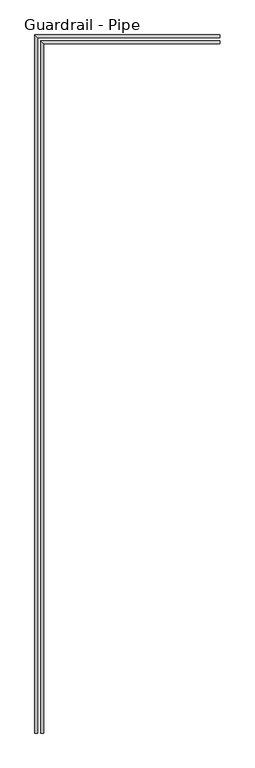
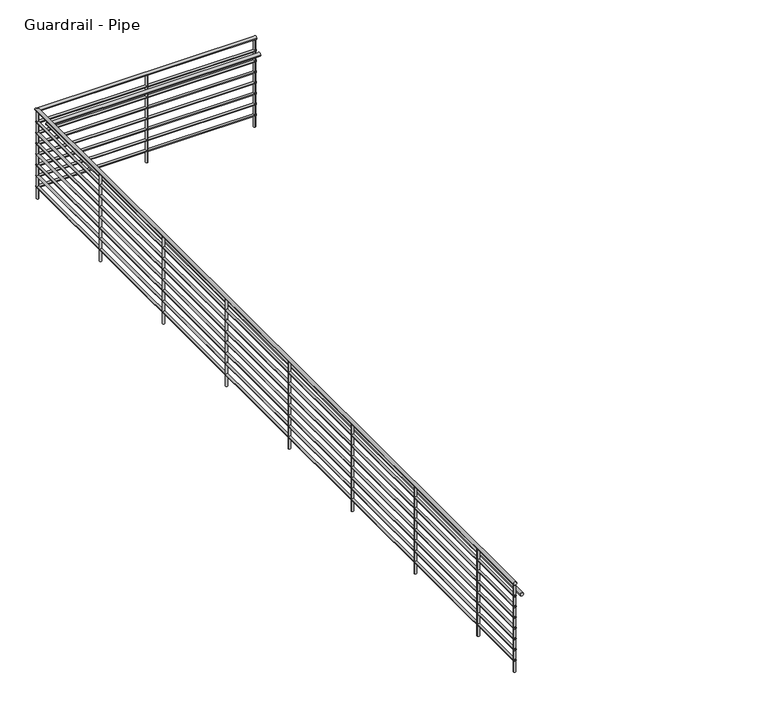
"""IFC4 building model written with IfcOpenShell, lengths in millimetres: railing geometry, Guardrail - Pipe."""

from ifc_helpers import new_model, si_unit, point, frame, frame_2d, origin, place, context, project, spatial, circle_curve, ellipse_curve, trimmed, segment, composite_curve, outline, extrude, source, transform, mapped, element, save
from ifc_brep_helpers import plane_surface, cylinder_surface, advanced_brep


def guardrail_pipe_a9856383(model_context):
    return source(origin(), model_context, "Body", "SolidModel", [
        advanced_brep(
        [(-2934.7516552, 9579.927236, 4095.75), (-2934.7516552, 9618.027236, 4095.75), (-5354.1016552, 9579.927236, 4095.75), (-5392.2016552, 9618.027236, 4095.75), (-5354.1016552, 353.377236, 4095.75), (-5392.2016552, 353.377236, 4095.75)],
        [
            (0, 1, circle_curve(frame((-2934.7516552, 9598.977236, 4095.75), z_axis=(1.0, 0.0, 0.0), x_axis=(0.0, 1.0, 0.0)), 19.05)),
            (1, 0, circle_curve(frame((-2934.7516552, 9598.977236, 4095.75), z_axis=(1.0, 0.0, 0.0), x_axis=(0.0, 1.0, 0.0)), 19.05)),
            (0, 2),
            (2, 3, ellipse_curve(frame((-5373.1516552, 9598.977236, 4095.75), z_axis=(0.7071067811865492, 0.7071067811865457, 0.0), x_axis=(0.7071067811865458, -0.7071067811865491, 0.0)), 26.9407684, 19.05)),
            (3, 1),
            (3, 2, ellipse_curve(frame((-5373.1516552, 9598.977236, 4095.75), z_axis=(0.7071067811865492, 0.7071067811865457, 0.0), x_axis=(0.7071067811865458, -0.7071067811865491, 0.0)), 26.9407684, 19.05)),
            (4, 5, circle_curve(frame((-5373.1516552, 353.377236, 4095.75), z_axis=(0.0, -1.0, 0.0), x_axis=(-1.0, 0.0, 0.0)), 19.05)),
            (5, 4, circle_curve(frame((-5373.1516552, 353.377236, 4095.75), z_axis=(0.0, -1.0, 0.0), x_axis=(-1.0, 0.0, 0.0)), 19.05)),
            (2, 4),
            (5, 3),
        ],
        [
            plane_surface(frame((-2934.7516552, 9598.977236, 4114.8), z_axis=(1.0, 0.0, 0.0), x_axis=(0.0, -1.0, 0.0))),
            cylinder_surface(frame((-2934.7516552, 9598.977236, 4095.75), z_axis=(1.0, 0.0, 0.0), x_axis=(0.0, 1.0, 0.0)), 19.05),
            plane_surface(frame((-5373.1516552, 353.377236, 4114.8), z_axis=(0.0, -1.0, 0.0), x_axis=(0.0, 0.0, -1.0))),
            cylinder_surface(frame((-5373.1516552, 9598.977236, 4095.75), z_axis=(0.0, 1.0, 0.0), x_axis=(-1.0, 0.0, 0.0)), 19.05),
        ],
        [
            (0, [[1, 2]]),
            (1, [[-1, 3, 4, 5]]),
            (1, [[-2, -5, 6, -3]]),
            (2, [[7, 8]]),
            (3, [[-4, 9, -8, 10]]),
            (3, [[-6, -10, -7, -9]]),
        ],
    ),
        advanced_brep(
        [(-2934.7516552, 9586.277236, 3949.7), (-2934.7516552, 9611.677236, 3949.7), (-5360.4516552, 9586.277236, 3949.7), (-5385.8516552, 9611.677236, 3949.7), (-5360.4516552, 353.377236, 3949.7), (-5385.8516552, 353.377236, 3949.7)],
        [
            (0, 1, circle_curve(frame((-2934.7516552, 9598.977236, 3949.7), z_axis=(1.0, 0.0, 0.0), x_axis=(0.0, 1.0, 0.0)), 12.7)),
            (1, 0, circle_curve(frame((-2934.7516552, 9598.977236, 3949.7), z_axis=(1.0, 0.0, 0.0), x_axis=(0.0, 1.0, 0.0)), 12.7)),
            (0, 2),
            (2, 3, ellipse_curve(frame((-5373.1516552, 9598.977236, 3949.7), z_axis=(0.7071067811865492, 0.7071067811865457, 0.0), x_axis=(0.7071067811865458, -0.7071067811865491, 0.0)), 17.9605122, 12.7)),
            (3, 1),
            (3, 2, ellipse_curve(frame((-5373.1516552, 9598.977236, 3949.7), z_axis=(0.7071067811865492, 0.7071067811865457, 0.0), x_axis=(0.7071067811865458, -0.7071067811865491, 0.0)), 17.9605122, 12.7)),
            (4, 5, circle_curve(frame((-5373.1516552, 353.377236, 3949.7), z_axis=(0.0, -1.0, 0.0), x_axis=(-1.0, 0.0, 0.0)), 12.7)),
            (5, 4, circle_curve(frame((-5373.1516552, 353.377236, 3949.7), z_axis=(0.0, -1.0, 0.0), x_axis=(-1.0, 0.0, 0.0)), 12.7)),
            (2, 4),
            (5, 3),
        ],
        [
            plane_surface(frame((-2934.7516552, 9598.977236, 3962.4), z_axis=(1.0, 0.0, 0.0), x_axis=(0.0, -1.0, 0.0))),
            cylinder_surface(frame((-2934.7516552, 9598.977236, 3949.7), z_axis=(1.0, 0.0, 0.0), x_axis=(0.0, 1.0, 0.0)), 12.7),
            plane_surface(frame((-5373.1516552, 353.377236, 3962.4), z_axis=(0.0, -1.0, 0.0), x_axis=(0.0, 0.0, -1.0))),
            cylinder_surface(frame((-5373.1516552, 9598.977236, 3949.7), z_axis=(0.0, 1.0, 0.0), x_axis=(-1.0, 0.0, 0.0)), 12.7),
        ],
        [
            (0, [[1, 2]]),
            (1, [[-1, 3, 4, 5]]),
            (1, [[-2, -5, 6, -3]]),
            (2, [[7, 8]]),
            (3, [[-4, 9, -8, 10]]),
            (3, [[-6, -10, -7, -9]]),
        ],
    ),
        advanced_brep(
        [(-2934.7516552, 9503.727236, 3943.35), (-2934.7516552, 9541.827236, 3943.35), (-5277.9016552, 9503.727236, 3943.35), (-5316.0016552, 9541.827236, 3943.35), (-5277.9016552, 353.377236, 3943.35), (-5316.0016552, 353.377236, 3943.35)],
        [
            (0, 1, circle_curve(frame((-2934.7516552, 9522.777236, 3943.35), z_axis=(1.0, 0.0, 0.0), x_axis=(0.0, 1.0, 0.0)), 19.05)),
            (1, 0, circle_curve(frame((-2934.7516552, 9522.777236, 3943.35), z_axis=(1.0, 0.0, 0.0), x_axis=(0.0, 1.0, 0.0)), 19.05)),
            (0, 2),
            (2, 3, ellipse_curve(frame((-5296.9516552, 9522.777236, 3943.35), z_axis=(0.7071067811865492, 0.7071067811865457, 0.0), x_axis=(0.7071067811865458, -0.7071067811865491, 0.0)), 26.9407684, 19.05)),
            (3, 1),
            (3, 2, ellipse_curve(frame((-5296.9516552, 9522.777236, 3943.35), z_axis=(0.7071067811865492, 0.7071067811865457, 0.0), x_axis=(0.7071067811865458, -0.7071067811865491, 0.0)), 26.9407684, 19.05)),
            (4, 5, circle_curve(frame((-5296.9516552, 353.377236, 3943.35), z_axis=(0.0, -1.0, 0.0), x_axis=(-1.0, 0.0, 0.0)), 19.05)),
            (5, 4, circle_curve(frame((-5296.9516552, 353.377236, 3943.35), z_axis=(0.0, -1.0, 0.0), x_axis=(-1.0, 0.0, 0.0)), 19.05)),
            (2, 4),
            (5, 3),
        ],
        [
            plane_surface(frame((-2934.7516552, 9522.777236, 3962.4), z_axis=(1.0, 0.0, 0.0), x_axis=(0.0, -1.0, 0.0))),
            cylinder_surface(frame((-2934.7516552, 9522.777236, 3943.35), z_axis=(1.0, 0.0, 0.0), x_axis=(0.0, 1.0, 0.0)), 19.05),
            plane_surface(frame((-5296.9516552, 353.377236, 3962.4), z_axis=(0.0, -1.0, 0.0), x_axis=(0.0, 0.0, -1.0))),
            cylinder_surface(frame((-5296.9516552, 9522.777236, 3943.35), z_axis=(0.0, 1.0, 0.0), x_axis=(-1.0, 0.0, 0.0)), 19.05),
        ],
        [
            (0, [[1, 2]]),
            (1, [[-1, 3, 4, 5]]),
            (1, [[-2, -5, 6, -3]]),
            (2, [[7, 8]]),
            (3, [[-4, 9, -8, 10]]),
            (3, [[-6, -10, -7, -9]]),
        ],
    ),
        advanced_brep(
        [(-2934.7516552, 9586.277236, 3822.7), (-2934.7516552, 9611.677236, 3822.7), (-5360.4516552, 9586.277236, 3822.7), (-5385.8516552, 9611.677236, 3822.7), (-5360.4516552, 353.377236, 3822.7), (-5385.8516552, 353.377236, 3822.7)],
        [
            (0, 1, circle_curve(frame((-2934.7516552, 9598.977236, 3822.7), z_axis=(1.0, 0.0, 0.0), x_axis=(0.0, 1.0, 0.0)), 12.7)),
            (1, 0, circle_curve(frame((-2934.7516552, 9598.977236, 3822.7), z_axis=(1.0, 0.0, 0.0), x_axis=(0.0, 1.0, 0.0)), 12.7)),
            (0, 2),
            (2, 3, ellipse_curve(frame((-5373.1516552, 9598.977236, 3822.7), z_axis=(0.7071067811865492, 0.7071067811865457, 0.0), x_axis=(0.7071067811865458, -0.7071067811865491, 0.0)), 17.9605122, 12.7)),
            (3, 1),
            (3, 2, ellipse_curve(frame((-5373.1516552, 9598.977236, 3822.7), z_axis=(0.7071067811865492, 0.7071067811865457, 0.0), x_axis=(0.7071067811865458, -0.7071067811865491, 0.0)), 17.9605122, 12.7)),
            (4, 5, circle_curve(frame((-5373.1516552, 353.377236, 3822.7), z_axis=(0.0, -1.0, 0.0), x_axis=(-1.0, 0.0, 0.0)), 12.7)),
            (5, 4, circle_curve(frame((-5373.1516552, 353.377236, 3822.7), z_axis=(0.0, -1.0, 0.0), x_axis=(-1.0, 0.0, 0.0)), 12.7)),
            (2, 4),
            (5, 3),
        ],
        [
            plane_surface(frame((-2934.7516552, 9598.977236, 3835.4), z_axis=(1.0, 0.0, 0.0), x_axis=(0.0, -1.0, 0.0))),
            cylinder_surface(frame((-2934.7516552, 9598.977236, 3822.7), z_axis=(1.0, 0.0, 0.0), x_axis=(0.0, 1.0, 0.0)), 12.7),
            plane_surface(frame((-5373.1516552, 353.377236, 3835.4), z_axis=(0.0, -1.0, 0.0), x_axis=(0.0, 0.0, -1.0))),
            cylinder_surface(frame((-5373.1516552, 9598.977236, 3822.7), z_axis=(0.0, 1.0, 0.0), x_axis=(-1.0, 0.0, 0.0)), 12.7),
        ],
        [
            (0, [[1, 2]]),
            (1, [[-1, 3, 4, 5]]),
            (1, [[-2, -5, 6, -3]]),
            (2, [[7, 8]]),
            (3, [[-4, 9, -8, 10]]),
            (3, [[-6, -10, -7, -9]]),
        ],
    ),
        advanced_brep(
        [(-2934.7516552, 9586.277236, 3695.7), (-2934.7516552, 9611.677236, 3695.7), (-5360.4516552, 9586.277236, 3695.7), (-5385.8516552, 9611.677236, 3695.7), (-5360.4516552, 353.377236, 3695.7), (-5385.8516552, 353.377236, 3695.7)],
        [
            (0, 1, circle_curve(frame((-2934.7516552, 9598.977236, 3695.7), z_axis=(1.0, 0.0, 0.0), x_axis=(0.0, 1.0, 0.0)), 12.7)),
            (1, 0, circle_curve(frame((-2934.7516552, 9598.977236, 3695.7), z_axis=(1.0, 0.0, 0.0), x_axis=(0.0, 1.0, 0.0)), 12.7)),
            (0, 2),
            (2, 3, ellipse_curve(frame((-5373.1516552, 9598.977236, 3695.7), z_axis=(0.7071067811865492, 0.7071067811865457, 0.0), x_axis=(0.7071067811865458, -0.7071067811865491, 0.0)), 17.9605122, 12.7)),
            (3, 1),
            (3, 2, ellipse_curve(frame((-5373.1516552, 9598.977236, 3695.7), z_axis=(0.7071067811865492, 0.7071067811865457, 0.0), x_axis=(0.7071067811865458, -0.7071067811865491, 0.0)), 17.9605122, 12.7)),
            (4, 5, circle_curve(frame((-5373.1516552, 353.377236, 3695.7), z_axis=(0.0, -1.0, 0.0), x_axis=(-1.0, 0.0, 0.0)), 12.7)),
            (5, 4, circle_curve(frame((-5373.1516552, 353.377236, 3695.7), z_axis=(0.0, -1.0, 0.0), x_axis=(-1.0, 0.0, 0.0)), 12.7)),
            (2, 4),
            (5, 3),
        ],
        [
            plane_surface(frame((-2934.7516552, 9598.977236, 3708.4), z_axis=(1.0, 0.0, 0.0), x_axis=(0.0, -1.0, 0.0))),
            cylinder_surface(frame((-2934.7516552, 9598.977236, 3695.7), z_axis=(1.0, 0.0, 0.0), x_axis=(0.0, 1.0, 0.0)), 12.7),
            plane_surface(frame((-5373.1516552, 353.377236, 3708.4), z_axis=(0.0, -1.0, 0.0), x_axis=(0.0, 0.0, -1.0))),
            cylinder_surface(frame((-5373.1516552, 9598.977236, 3695.7), z_axis=(0.0, 1.0, 0.0), x_axis=(-1.0, 0.0, 0.0)), 12.7),
        ],
        [
            (0, [[1, 2]]),
            (1, [[-1, 3, 4, 5]]),
            (1, [[-2, -5, 6, -3]]),
            (2, [[7, 8]]),
            (3, [[-4, 9, -8, 10]]),
            (3, [[-6, -10, -7, -9]]),
        ],
    ),
        advanced_brep(
        [(-2934.7516552, 9586.277236, 3568.7), (-2934.7516552, 9611.677236, 3568.7), (-5360.4516552, 9586.277236, 3568.7), (-5385.8516552, 9611.677236, 3568.7), (-5360.4516552, 353.377236, 3568.7), (-5385.8516552, 353.377236, 3568.7)],
        [
            (0, 1, circle_curve(frame((-2934.7516552, 9598.977236, 3568.7), z_axis=(1.0, 0.0, 0.0), x_axis=(0.0, 1.0, 0.0)), 12.7)),
            (1, 0, circle_curve(frame((-2934.7516552, 9598.977236, 3568.7), z_axis=(1.0, 0.0, 0.0), x_axis=(0.0, 1.0, 0.0)), 12.7)),
            (0, 2),
            (2, 3, ellipse_curve(frame((-5373.1516552, 9598.977236, 3568.7), z_axis=(0.7071067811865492, 0.7071067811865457, 0.0), x_axis=(0.7071067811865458, -0.7071067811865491, 0.0)), 17.9605122, 12.7)),
            (3, 1),
            (3, 2, ellipse_curve(frame((-5373.1516552, 9598.977236, 3568.7), z_axis=(0.7071067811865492, 0.7071067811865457, 0.0), x_axis=(0.7071067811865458, -0.7071067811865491, 0.0)), 17.9605122, 12.7)),
            (4, 5, circle_curve(frame((-5373.1516552, 353.377236, 3568.7), z_axis=(0.0, -1.0, 0.0), x_axis=(-1.0, 0.0, 0.0)), 12.7)),
            (5, 4, circle_curve(frame((-5373.1516552, 353.377236, 3568.7), z_axis=(0.0, -1.0, 0.0), x_axis=(-1.0, 0.0, 0.0)), 12.7)),
            (2, 4),
            (5, 3),
        ],
        [
            plane_surface(frame((-2934.7516552, 9598.977236, 3581.4), z_axis=(1.0, 0.0, 0.0), x_axis=(0.0, -1.0, 0.0))),
            cylinder_surface(frame((-2934.7516552, 9598.977236, 3568.7), z_axis=(1.0, 0.0, 0.0), x_axis=(0.0, 1.0, 0.0)), 12.7),
            plane_surface(frame((-5373.1516552, 353.377236, 3581.4), z_axis=(0.0, -1.0, 0.0), x_axis=(0.0, 0.0, -1.0))),
            cylinder_surface(frame((-5373.1516552, 9598.977236, 3568.7), z_axis=(0.0, 1.0, 0.0), x_axis=(-1.0, 0.0, 0.0)), 12.7),
        ],
        [
            (0, [[1, 2]]),
            (1, [[-1, 3, 4, 5]]),
            (1, [[-2, -5, 6, -3]]),
            (2, [[7, 8]]),
            (3, [[-4, 9, -8, 10]]),
            (3, [[-6, -10, -7, -9]]),
        ],
    ),
        advanced_brep(
        [(-2934.7516552, 9586.277236, 3441.7), (-2934.7516552, 9611.677236, 3441.7), (-5360.4516552, 9586.277236, 3441.7), (-5385.8516552, 9611.677236, 3441.7), (-5360.4516552, 353.377236, 3441.7), (-5385.8516552, 353.377236, 3441.7)],
        [
            (0, 1, circle_curve(frame((-2934.7516552, 9598.977236, 3441.7), z_axis=(1.0, 0.0, 0.0), x_axis=(0.0, 1.0, 0.0)), 12.7)),
            (1, 0, circle_curve(frame((-2934.7516552, 9598.977236, 3441.7), z_axis=(1.0, 0.0, 0.0), x_axis=(0.0, 1.0, 0.0)), 12.7)),
            (0, 2),
            (2, 3, ellipse_curve(frame((-5373.1516552, 9598.977236, 3441.7), z_axis=(0.7071067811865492, 0.7071067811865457, 0.0), x_axis=(0.7071067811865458, -0.7071067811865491, 0.0)), 17.9605122, 12.7)),
            (3, 1),
            (3, 2, ellipse_curve(frame((-5373.1516552, 9598.977236, 3441.7), z_axis=(0.7071067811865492, 0.7071067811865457, 0.0), x_axis=(0.7071067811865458, -0.7071067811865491, 0.0)), 17.9605122, 12.7)),
            (4, 5, circle_curve(frame((-5373.1516552, 353.377236, 3441.7), z_axis=(0.0, -1.0, 0.0), x_axis=(-1.0, 0.0, 0.0)), 12.7)),
            (5, 4, circle_curve(frame((-5373.1516552, 353.377236, 3441.7), z_axis=(0.0, -1.0, 0.0), x_axis=(-1.0, 0.0, 0.0)), 12.7)),
            (2, 4),
            (5, 3),
        ],
        [
            plane_surface(frame((-2934.7516552, 9598.977236, 3454.4), z_axis=(1.0, 0.0, 0.0), x_axis=(0.0, -1.0, 0.0))),
            cylinder_surface(frame((-2934.7516552, 9598.977236, 3441.7), z_axis=(1.0, 0.0, 0.0), x_axis=(0.0, 1.0, 0.0)), 12.7),
            plane_surface(frame((-5373.1516552, 353.377236, 3454.4), z_axis=(0.0, -1.0, 0.0), x_axis=(0.0, 0.0, -1.0))),
            cylinder_surface(frame((-5373.1516552, 9598.977236, 3441.7), z_axis=(0.0, 1.0, 0.0), x_axis=(-1.0, 0.0, 0.0)), 12.7),
        ],
        [
            (0, [[1, 2]]),
            (1, [[-1, 3, 4, 5]]),
            (1, [[-2, -5, 6, -3]]),
            (2, [[7, 8]]),
            (3, [[-4, 9, -8, 10]]),
            (3, [[-6, -10, -7, -9]]),
        ],
    ),
        advanced_brep(
        [(-2934.7516552, 9586.277236, 3314.7), (-2934.7516552, 9611.677236, 3314.7), (-5360.4516552, 9586.277236, 3314.7), (-5385.8516552, 9611.677236, 3314.7), (-5360.4516552, 353.377236, 3314.7), (-5385.8516552, 353.377236, 3314.7)],
        [
            (0, 1, circle_curve(frame((-2934.7516552, 9598.977236, 3314.7), z_axis=(1.0, 0.0, 0.0), x_axis=(0.0, 1.0, 0.0)), 12.7)),
            (1, 0, circle_curve(frame((-2934.7516552, 9598.977236, 3314.7), z_axis=(1.0, 0.0, 0.0), x_axis=(0.0, 1.0, 0.0)), 12.7)),
            (0, 2),
            (2, 3, ellipse_curve(frame((-5373.1516552, 9598.977236, 3314.7), z_axis=(0.7071067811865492, 0.7071067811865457, 0.0), x_axis=(0.7071067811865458, -0.7071067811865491, 0.0)), 17.9605122, 12.7)),
            (3, 1),
            (3, 2, ellipse_curve(frame((-5373.1516552, 9598.977236, 3314.7), z_axis=(0.7071067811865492, 0.7071067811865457, 0.0), x_axis=(0.7071067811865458, -0.7071067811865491, 0.0)), 17.9605122, 12.7)),
            (4, 5, circle_curve(frame((-5373.1516552, 353.377236, 3314.7), z_axis=(0.0, -1.0, 0.0), x_axis=(-1.0, 0.0, 0.0)), 12.7)),
            (5, 4, circle_curve(frame((-5373.1516552, 353.377236, 3314.7), z_axis=(0.0, -1.0, 0.0), x_axis=(-1.0, 0.0, 0.0)), 12.7)),
            (2, 4),
            (5, 3),
        ],
        [
            plane_surface(frame((-2934.7516552, 9598.977236, 3327.4), z_axis=(1.0, 0.0, 0.0), x_axis=(0.0, -1.0, 0.0))),
            cylinder_surface(frame((-2934.7516552, 9598.977236, 3314.7), z_axis=(1.0, 0.0, 0.0), x_axis=(0.0, 1.0, 0.0)), 12.7),
            plane_surface(frame((-5373.1516552, 353.377236, 3327.4), z_axis=(0.0, -1.0, 0.0), x_axis=(0.0, 0.0, -1.0))),
            cylinder_surface(frame((-5373.1516552, 9598.977236, 3314.7), z_axis=(0.0, 1.0, 0.0), x_axis=(-1.0, 0.0, 0.0)), 12.7),
        ],
        [
            (0, [[1, 2]]),
            (1, [[-1, 3, 4, 5]]),
            (1, [[-2, -5, 6, -3]]),
            (2, [[7, 8]]),
            (3, [[-4, 9, -8, 10]]),
            (3, [[-6, -10, -7, -9]]),
        ],
    ),
        advanced_brep(
        [(-2934.7516552, 9586.277236, 3187.7), (-2934.7516552, 9611.677236, 3187.7), (-5360.4516552, 9586.277236, 3187.7), (-5385.8516552, 9611.677236, 3187.7), (-5360.4516552, 353.377236, 3187.7), (-5385.8516552, 353.377236, 3187.7)],
        [
            (0, 1, circle_curve(frame((-2934.7516552, 9598.977236, 3187.7), z_axis=(1.0, 0.0, 0.0), x_axis=(0.0, 1.0, 0.0)), 12.7)),
            (1, 0, circle_curve(frame((-2934.7516552, 9598.977236, 3187.7), z_axis=(1.0, 0.0, 0.0), x_axis=(0.0, 1.0, 0.0)), 12.7)),
            (0, 2),
            (2, 3, ellipse_curve(frame((-5373.1516552, 9598.977236, 3187.7), z_axis=(0.7071067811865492, 0.7071067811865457, 0.0), x_axis=(0.7071067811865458, -0.7071067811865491, 0.0)), 17.9605122, 12.7)),
            (3, 1),
            (3, 2, ellipse_curve(frame((-5373.1516552, 9598.977236, 3187.7), z_axis=(0.7071067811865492, 0.7071067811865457, 0.0), x_axis=(0.7071067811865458, -0.7071067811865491, 0.0)), 17.9605122, 12.7)),
            (4, 5, circle_curve(frame((-5373.1516552, 353.377236, 3187.7), z_axis=(0.0, -1.0, 0.0), x_axis=(-1.0, 0.0, 0.0)), 12.7)),
            (5, 4, circle_curve(frame((-5373.1516552, 353.377236, 3187.7), z_axis=(0.0, -1.0, 0.0), x_axis=(-1.0, 0.0, 0.0)), 12.7)),
            (2, 4),
            (5, 3),
        ],
        [
            plane_surface(frame((-2934.7516552, 9598.977236, 3200.4), z_axis=(1.0, 0.0, 0.0), x_axis=(0.0, -1.0, 0.0))),
            cylinder_surface(frame((-2934.7516552, 9598.977236, 3187.7), z_axis=(1.0, 0.0, 0.0), x_axis=(0.0, 1.0, 0.0)), 12.7),
            plane_surface(frame((-5373.1516552, 353.377236, 3200.4), z_axis=(0.0, -1.0, 0.0), x_axis=(0.0, 0.0, -1.0))),
            cylinder_surface(frame((-5373.1516552, 9598.977236, 3187.7), z_axis=(0.0, 1.0, 0.0), x_axis=(-1.0, 0.0, 0.0)), 12.7),
        ],
        [
            (0, [[1, 2]]),
            (1, [[-1, 3, 4, 5]]),
            (1, [[-2, -5, 6, -3]]),
            (2, [[7, 8]]),
            (3, [[-4, 9, -8, 10]]),
            (3, [[-6, -10, -7, -9]]),
        ],
    ),
        extrude(outline(composite_curve([segment(trimmed(circle_curve(frame_2d((-5373.1516552, 1064.577236)), 12.7), [point((-5360.4516552, 1064.577236))], [point((-5385.8516552, 1064.577236))], False, "CARTESIAN"), True, "CONTINUOUS"), segment(trimmed(circle_curve(frame_2d((-5373.1516552, 1064.577236)), 12.7), [point((-5385.8516552, 1064.577236))], [point((-5360.4516552, 1064.577236))], False, "CARTESIAN"), True, "CONTINUOUS")], self_intersect=False)), frame((0.0, 0.0, 3048.0), z_axis=(0.0, 0.0, 1.0), x_axis=(1.0, 0.0, 0.0)), (0.0, 0.0, 1.0), 1028.7),
        extrude(outline(composite_curve([segment(trimmed(circle_curve(frame_2d((-5373.1516552, 2283.777236)), 12.7), [point((-5360.4516552, 2283.777236))], [point((-5385.8516552, 2283.777236))], False, "CARTESIAN"), True, "CONTINUOUS"), segment(trimmed(circle_curve(frame_2d((-5373.1516552, 2283.777236)), 12.7), [point((-5385.8516552, 2283.777236))], [point((-5360.4516552, 2283.777236))], False, "CARTESIAN"), True, "CONTINUOUS")], self_intersect=False)), frame((0.0, 0.0, 3048.0), z_axis=(0.0, 0.0, 1.0), x_axis=(1.0, 0.0, 0.0)), (0.0, 0.0, 1.0), 1028.7),
        extrude(outline(composite_curve([segment(trimmed(circle_curve(frame_2d((-5373.1516552, 3502.977236)), 12.7), [point((-5360.4516552, 3502.977236))], [point((-5385.8516552, 3502.977236))], False, "CARTESIAN"), True, "CONTINUOUS"), segment(trimmed(circle_curve(frame_2d((-5373.1516552, 3502.977236)), 12.7), [point((-5385.8516552, 3502.977236))], [point((-5360.4516552, 3502.977236))], False, "CARTESIAN"), True, "CONTINUOUS")], self_intersect=False)), frame((0.0, 0.0, 3048.0), z_axis=(0.0, 0.0, 1.0), x_axis=(1.0, 0.0, 0.0)), (0.0, 0.0, 1.0), 1028.7),
        extrude(outline(composite_curve([segment(trimmed(circle_curve(frame_2d((-5373.1516552, 4722.177236)), 12.7), [point((-5360.4516552, 4722.177236))], [point((-5385.8516552, 4722.177236))], False, "CARTESIAN"), True, "CONTINUOUS"), segment(trimmed(circle_curve(frame_2d((-5373.1516552, 4722.177236)), 12.7), [point((-5385.8516552, 4722.177236))], [point((-5360.4516552, 4722.177236))], False, "CARTESIAN"), True, "CONTINUOUS")], self_intersect=False)), frame((0.0, 0.0, 3048.0), z_axis=(0.0, 0.0, 1.0), x_axis=(1.0, 0.0, 0.0)), (0.0, 0.0, 1.0), 1028.7),
        extrude(outline(composite_curve([segment(trimmed(circle_curve(frame_2d((-5373.1516552, 5941.377236)), 12.7), [point((-5360.4516552, 5941.377236))], [point((-5385.8516552, 5941.377236))], False, "CARTESIAN"), True, "CONTINUOUS"), segment(trimmed(circle_curve(frame_2d((-5373.1516552, 5941.377236)), 12.7), [point((-5385.8516552, 5941.377236))], [point((-5360.4516552, 5941.377236))], False, "CARTESIAN"), True, "CONTINUOUS")], self_intersect=False)), frame((0.0, 0.0, 3048.0), z_axis=(0.0, 0.0, 1.0), x_axis=(1.0, 0.0, 0.0)), (0.0, 0.0, 1.0), 1028.7),
        extrude(outline(composite_curve([segment(trimmed(circle_curve(frame_2d((-5373.1516552, 7160.577236)), 12.7), [point((-5360.4516552, 7160.577236))], [point((-5385.8516552, 7160.577236))], False, "CARTESIAN"), True, "CONTINUOUS"), segment(trimmed(circle_curve(frame_2d((-5373.1516552, 7160.577236)), 12.7), [point((-5385.8516552, 7160.577236))], [point((-5360.4516552, 7160.577236))], False, "CARTESIAN"), True, "CONTINUOUS")], self_intersect=False)), frame((0.0, 0.0, 3048.0), z_axis=(0.0, 0.0, 1.0), x_axis=(1.0, 0.0, 0.0)), (0.0, 0.0, 1.0), 1028.7),
        extrude(outline(composite_curve([segment(trimmed(circle_curve(frame_2d((-5373.1516552, 8379.777236)), 12.7), [point((-5360.4516552, 8379.777236))], [point((-5385.8516552, 8379.777236))], False, "CARTESIAN"), True, "CONTINUOUS"), segment(trimmed(circle_curve(frame_2d((-5373.1516552, 8379.777236)), 12.7), [point((-5385.8516552, 8379.777236))], [point((-5360.4516552, 8379.777236))], False, "CARTESIAN"), True, "CONTINUOUS")], self_intersect=False)), frame((0.0, 0.0, 3048.0), z_axis=(0.0, 0.0, 1.0), x_axis=(1.0, 0.0, 0.0)), (0.0, 0.0, 1.0), 1028.7),
        extrude(outline(composite_curve([segment(trimmed(circle_curve(frame_2d((-4153.9516552, 9598.977236)), 12.7), [point((-4153.9516552, 9586.277236))], [point((-4153.9516552, 9611.677236))], False, "CARTESIAN"), True, "CONTINUOUS"), segment(trimmed(circle_curve(frame_2d((-4153.9516552, 9598.977236)), 12.7), [point((-4153.9516552, 9611.677236))], [point((-4153.9516552, 9586.277236))], False, "CARTESIAN"), True, "CONTINUOUS")], self_intersect=False)), frame((0.0, 0.0, 3048.0), z_axis=(0.0, 0.0, 1.0), x_axis=(1.0, 0.0, 0.0)), (0.0, 0.0, 1.0), 1028.7),
        extrude(outline(composite_curve([segment(trimmed(circle_curve(frame_2d((-5373.1516552, 9598.977236)), 12.7), [point((-5373.1516552, 9586.277236))], [point((-5373.1516552, 9611.677236))], False, "CARTESIAN"), True, "CONTINUOUS"), segment(trimmed(circle_curve(frame_2d((-5373.1516552, 9598.977236)), 12.7), [point((-5373.1516552, 9611.677236))], [point((-5373.1516552, 9586.277236))], False, "CARTESIAN"), True, "CONTINUOUS")], self_intersect=False)), frame((0.0, 0.0, 3048.0), z_axis=(0.0, 0.0, 1.0), x_axis=(1.0, 0.0, 0.0)), (0.0, 0.0, 1.0), 1028.7),
        extrude(outline(composite_curve([segment(trimmed(circle_curve(frame_2d((-5373.1516552, 366.077236)), 12.7), [point((-5360.4516552, 366.077236))], [point((-5385.8516552, 366.077236))], False, "CARTESIAN"), True, "CONTINUOUS"), segment(trimmed(circle_curve(frame_2d((-5373.1516552, 366.077236)), 12.7), [point((-5385.8516552, 366.077236))], [point((-5360.4516552, 366.077236))], False, "CARTESIAN"), True, "CONTINUOUS")], self_intersect=False)), frame((0.0, 0.0, 3048.0), z_axis=(0.0, 0.0, 1.0), x_axis=(1.0, 0.0, 0.0)), (0.0, 0.0, 1.0), 1028.7),
        extrude(outline(composite_curve([segment(trimmed(circle_curve(frame_2d((-2947.4516552, 9598.977236)), 12.7), [point((-2947.4516552, 9586.277236))], [point((-2947.4516552, 9611.677236))], False, "CARTESIAN"), True, "CONTINUOUS"), segment(trimmed(circle_curve(frame_2d((-2947.4516552, 9598.977236)), 12.7), [point((-2947.4516552, 9611.677236))], [point((-2947.4516552, 9586.277236))], False, "CARTESIAN"), True, "CONTINUOUS")], self_intersect=False)), frame((0.0, 0.0, 3048.0), z_axis=(0.0, 0.0, 1.0), x_axis=(1.0, 0.0, 0.0)), (0.0, 0.0, 1.0), 1028.7),
    ])


if __name__ == "__main__":
    model = new_model("IFC4")
    model_context = context("Model", 3, world=origin())
    ifc_project = project(units=[si_unit("LENGTHUNIT", "METRE", prefix="MILLI")], contexts=[model_context])
    site = spatial("IfcSite", under=ifc_project)
    building = spatial("IfcBuilding", under=site)
    placement = place(None, origin())
    guardrail_pipe_shape = guardrail_pipe_a9856383(model_context)
    element("IfcRailing", 1, ObjectType="Guardrail - Pipe", at=placement, inside=building, context=model_context, shape_type="MappedRepresentation", body=[
        mapped(guardrail_pipe_shape, transform((0.0, 0.0, 0.0), x_axis=(1.0, 0.0, 0.0), y_axis=(0.0, 1.0, 0.0), z_axis=(0.0, 0.0, 1.0))),
    ])
    save(model, "model.ifc")
